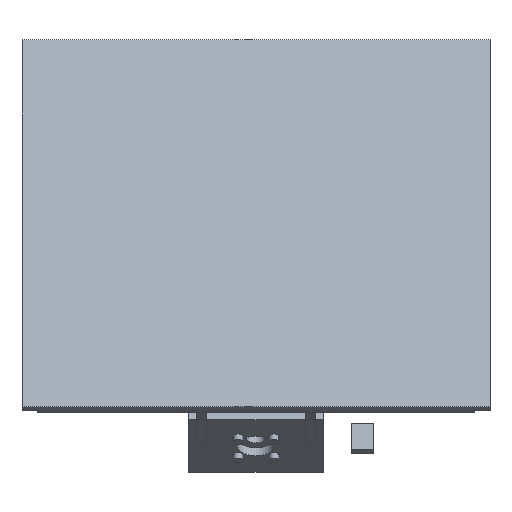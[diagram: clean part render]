
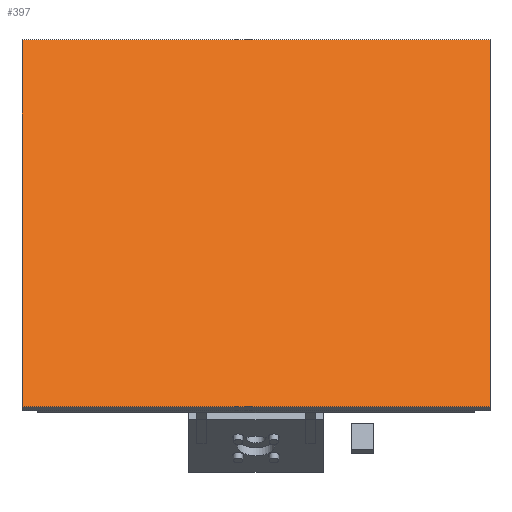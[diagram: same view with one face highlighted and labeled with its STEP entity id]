
A CAD part, top view. The second image highlights one B-rep face of the part: STEP entity #397.
In plain terms, the highlighted planar face has unit normal (0, 0.517, 0.856).
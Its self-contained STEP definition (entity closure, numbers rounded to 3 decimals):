
#88 = VERTEX_POINT('',#89);
#89 = CARTESIAN_POINT('',(-300.,-523.548,1637.215));
#98 = PLANE('',#99);
#99 = AXIS2_PLACEMENT_3D('',#100,#101,#102);
#100 = CARTESIAN_POINT('',(-300.,-523.548,1637.215));
#101 = DIRECTION('',(0.,-0.856,0.517));
#102 = DIRECTION('',(1.,0.,0.));
#110 = PLANE('',#111);
#111 = AXIS2_PLACEMENT_3D('',#112,#113,#114);
#112 = CARTESIAN_POINT('',(-300.,-994.383,1921.493));
#113 = DIRECTION('',(1.,0.,0.));
#114 = DIRECTION('',(0.,0.856,-0.517));
#151 = VERTEX_POINT('',#152);
#152 = CARTESIAN_POINT('',(300.,-523.548,1637.215));
#166 = PLANE('',#167);
#167 = AXIS2_PLACEMENT_3D('',#168,#169,#170);
#168 = CARTESIAN_POINT('',(300.,-523.548,1637.215));
#169 = DIRECTION('',(-1.,-0.,0.));
#170 = DIRECTION('',(0.,-0.856,0.517));
#178 = EDGE_CURVE('',#88,#151,#179,.T.);
#179 = SURFACE_CURVE('',#180,(#184,#191),.PCURVE_S1.);
#180 = LINE('',#181,#182);
#181 = CARTESIAN_POINT('',(-300.,-523.548,1637.215));
#182 = VECTOR('',#183,1.);
#183 = DIRECTION('',(1.,0.,0.));
#184 = PCURVE('',#98,#185);
#185 = DEFINITIONAL_REPRESENTATION('',(#186),#190);
#186 = LINE('',#187,#188);
#187 = CARTESIAN_POINT('',(0.,0.));
#188 = VECTOR('',#189,1.);
#189 = DIRECTION('',(1.,0.));
#190 = ( GEOMETRIC_REPRESENTATION_CONTEXT(2) 
PARAMETRIC_REPRESENTATION_CONTEXT() REPRESENTATION_CONTEXT('2D SPACE',''
  ) );
#191 = PCURVE('',#192,#197);
#192 = PLANE('',#193);
#193 = AXIS2_PLACEMENT_3D('',#194,#195,#196);
#194 = CARTESIAN_POINT('',(0.,-758.966,1779.354));
#195 = DIRECTION('',(-0.,-0.517,-0.856));
#196 = DIRECTION('',(0.,-0.856,0.517));
#197 = DEFINITIONAL_REPRESENTATION('',(#198),#202);
#198 = LINE('',#199,#200);
#199 = CARTESIAN_POINT('',(-275.,300.));
#200 = VECTOR('',#201,1.);
#201 = DIRECTION('',(0.,-1.));
#202 = ( GEOMETRIC_REPRESENTATION_CONTEXT(2) 
PARAMETRIC_REPRESENTATION_CONTEXT() REPRESENTATION_CONTEXT('2D SPACE',''
  ) );
#232 = VERTEX_POINT('',#233);
#233 = CARTESIAN_POINT('',(300.,-994.383,1921.493));
#247 = PLANE('',#248);
#248 = AXIS2_PLACEMENT_3D('',#249,#250,#251);
#249 = CARTESIAN_POINT('',(300.,-994.383,1921.493));
#250 = DIRECTION('',(0.,0.856,-0.517));
#251 = DIRECTION('',(-1.,0.,0.));
#259 = EDGE_CURVE('',#151,#232,#260,.T.);
#260 = SURFACE_CURVE('',#261,(#265,#272),.PCURVE_S1.);
#261 = LINE('',#262,#263);
#262 = CARTESIAN_POINT('',(300.,-523.548,1637.215));
#263 = VECTOR('',#264,1.);
#264 = DIRECTION('',(0.,-0.856,0.517));
#265 = PCURVE('',#166,#266);
#266 = DEFINITIONAL_REPRESENTATION('',(#267),#271);
#267 = LINE('',#268,#269);
#268 = CARTESIAN_POINT('',(0.,0.));
#269 = VECTOR('',#270,1.);
#270 = DIRECTION('',(1.,0.));
#271 = ( GEOMETRIC_REPRESENTATION_CONTEXT(2) 
PARAMETRIC_REPRESENTATION_CONTEXT() REPRESENTATION_CONTEXT('2D SPACE',''
  ) );
#272 = PCURVE('',#192,#273);
#273 = DEFINITIONAL_REPRESENTATION('',(#274),#278);
#274 = LINE('',#275,#276);
#275 = CARTESIAN_POINT('',(-275.,-300.));
#276 = VECTOR('',#277,1.);
#277 = DIRECTION('',(1.,0.));
#278 = ( GEOMETRIC_REPRESENTATION_CONTEXT(2) 
PARAMETRIC_REPRESENTATION_CONTEXT() REPRESENTATION_CONTEXT('2D SPACE',''
  ) );
#308 = VERTEX_POINT('',#309);
#309 = CARTESIAN_POINT('',(-300.,-994.383,1921.493));
#330 = EDGE_CURVE('',#232,#308,#331,.T.);
#331 = SURFACE_CURVE('',#332,(#336,#343),.PCURVE_S1.);
#332 = LINE('',#333,#334);
#333 = CARTESIAN_POINT('',(300.,-994.383,1921.493));
#334 = VECTOR('',#335,1.);
#335 = DIRECTION('',(-1.,0.,0.));
#336 = PCURVE('',#247,#337);
#337 = DEFINITIONAL_REPRESENTATION('',(#338),#342);
#338 = LINE('',#339,#340);
#339 = CARTESIAN_POINT('',(0.,0.));
#340 = VECTOR('',#341,1.);
#341 = DIRECTION('',(1.,0.));
#342 = ( GEOMETRIC_REPRESENTATION_CONTEXT(2) 
PARAMETRIC_REPRESENTATION_CONTEXT() REPRESENTATION_CONTEXT('2D SPACE',''
  ) );
#343 = PCURVE('',#192,#344);
#344 = DEFINITIONAL_REPRESENTATION('',(#345),#349);
#345 = LINE('',#346,#347);
#346 = CARTESIAN_POINT('',(275.,-300.));
#347 = VECTOR('',#348,1.);
#348 = DIRECTION('',(0.,1.));
#349 = ( GEOMETRIC_REPRESENTATION_CONTEXT(2) 
PARAMETRIC_REPRESENTATION_CONTEXT() REPRESENTATION_CONTEXT('2D SPACE',''
  ) );
#377 = EDGE_CURVE('',#308,#88,#378,.T.);
#378 = SURFACE_CURVE('',#379,(#383,#390),.PCURVE_S1.);
#379 = LINE('',#380,#381);
#380 = CARTESIAN_POINT('',(-300.,-994.383,1921.493));
#381 = VECTOR('',#382,1.);
#382 = DIRECTION('',(0.,0.856,-0.517));
#383 = PCURVE('',#110,#384);
#384 = DEFINITIONAL_REPRESENTATION('',(#385),#389);
#385 = LINE('',#386,#387);
#386 = CARTESIAN_POINT('',(0.,0.));
#387 = VECTOR('',#388,1.);
#388 = DIRECTION('',(1.,0.));
#389 = ( GEOMETRIC_REPRESENTATION_CONTEXT(2) 
PARAMETRIC_REPRESENTATION_CONTEXT() REPRESENTATION_CONTEXT('2D SPACE',''
  ) );
#390 = PCURVE('',#192,#391);
#391 = DEFINITIONAL_REPRESENTATION('',(#392),#396);
#392 = LINE('',#393,#394);
#393 = CARTESIAN_POINT('',(275.,300.));
#394 = VECTOR('',#395,1.);
#395 = DIRECTION('',(-1.,0.));
#396 = ( GEOMETRIC_REPRESENTATION_CONTEXT(2) 
PARAMETRIC_REPRESENTATION_CONTEXT() REPRESENTATION_CONTEXT('2D SPACE',''
  ) );
#397 = ADVANCED_FACE('',(#398),#192,.F.);
#398 = FACE_BOUND('',#399,.F.);
#399 = EDGE_LOOP('',(#400,#401,#402,#403));
#400 = ORIENTED_EDGE('',*,*,#178,.T.);
#401 = ORIENTED_EDGE('',*,*,#259,.T.);
#402 = ORIENTED_EDGE('',*,*,#330,.T.);
#403 = ORIENTED_EDGE('',*,*,#377,.T.);
